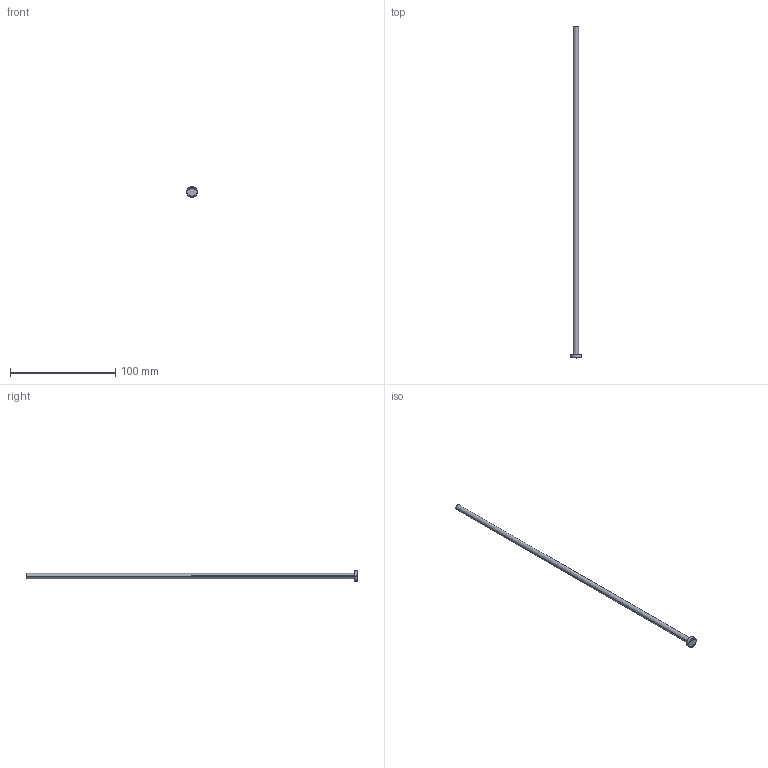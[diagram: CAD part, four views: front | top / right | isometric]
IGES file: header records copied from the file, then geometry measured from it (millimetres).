
Start section: SolidWorks IGES file using analytic representation for surfaces
Global section: file name: C:\Users\User\Downloads\Matripeça 31-08 tar\PB - PINO EXTRATOR TIPO _B_ (CATÁLOGO)\PB05,0\PB05,0315.IGS; native system: SolidWorks 2024; preprocessor: SolidWorks 2024; author: User; date: 260901.142920; units: millimetre
Bounding box: 10 x 315 x 10 mm (x, y, z)
Surface area: 5158.1 mm2 (no closed solid volume)
Topology: 0 solids, 0 shells, 407 faces, 3631 edges, 3631 vertices
Faces by surface type: bspline 393, revolution 14
